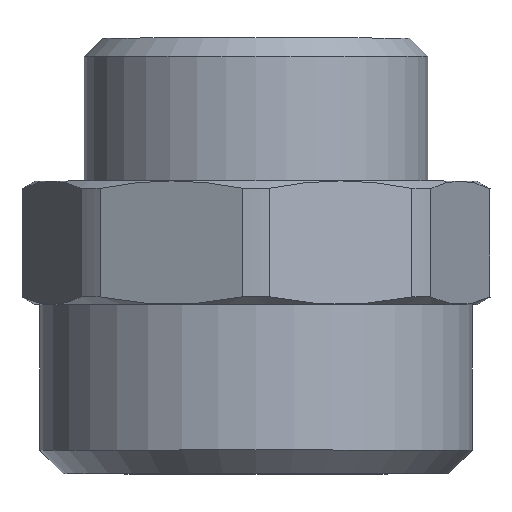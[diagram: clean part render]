
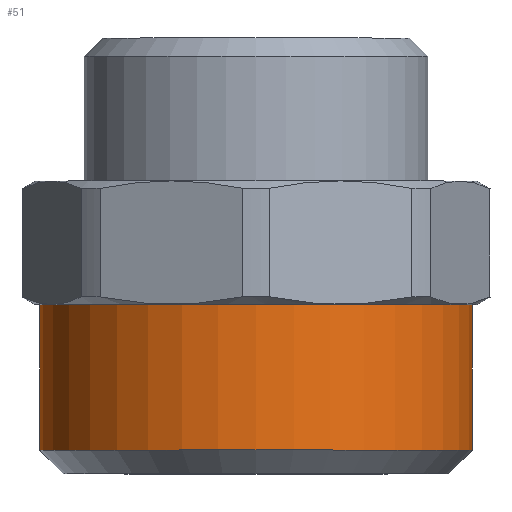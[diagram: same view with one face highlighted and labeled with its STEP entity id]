
A CAD part, top view. The second image highlights one B-rep face of the part: STEP entity #51.
In plain terms, the highlighted cylindrical face has radius 16.625 mm (diameter 33.249 mm), a full revolution.
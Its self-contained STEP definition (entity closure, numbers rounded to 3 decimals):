
#51=ADVANCED_FACE('',(#150,#152),#154,.T.);
#150=FACE_OUTER_BOUND('',#151,.T.);
#151=EDGE_LOOP('',(#430));
#152=FACE_OUTER_BOUND('',#153,.T.);
#153=EDGE_LOOP('',(#431));
#154=CYLINDRICAL_SURFACE('',#155,16.625);
#155=AXIS2_PLACEMENT_3D('',#156,#157,#158);
#156=CARTESIAN_POINT('',(0.,-4.75,0.));
#157=DIRECTION('',(0.,-1.,0.));
#158=DIRECTION('',(1.,0.,0.));
#430=ORIENTED_EDGE('',*,*,#601,.T.);
#431=ORIENTED_EDGE('',*,*,#599,.F.);
#599=EDGE_CURVE('',#695,#695,#696,.T.);
#601=EDGE_CURVE('',#699,#699,#700,.T.);
#695=VERTEX_POINT('',#867);
#696=CIRCLE('',#868,16.625);
#699=VERTEX_POINT('',#877);
#700=CIRCLE('',#878,16.625);
#867=CARTESIAN_POINT('',(16.625,-15.95,0.));
#868=AXIS2_PLACEMENT_3D('',#869,#870,#871);
#869=CARTESIAN_POINT('',(0.,-15.95,0.));
#870=DIRECTION('',(0.,-1.,0.));
#871=DIRECTION('',(1.,0.,0.));
#877=CARTESIAN_POINT('',(16.625,-4.75,0.));
#878=AXIS2_PLACEMENT_3D('',#879,#880,#881);
#879=CARTESIAN_POINT('',(0.,-4.75,0.));
#880=DIRECTION('',(0.,-1.,0.));
#881=DIRECTION('',(1.,0.,0.));
